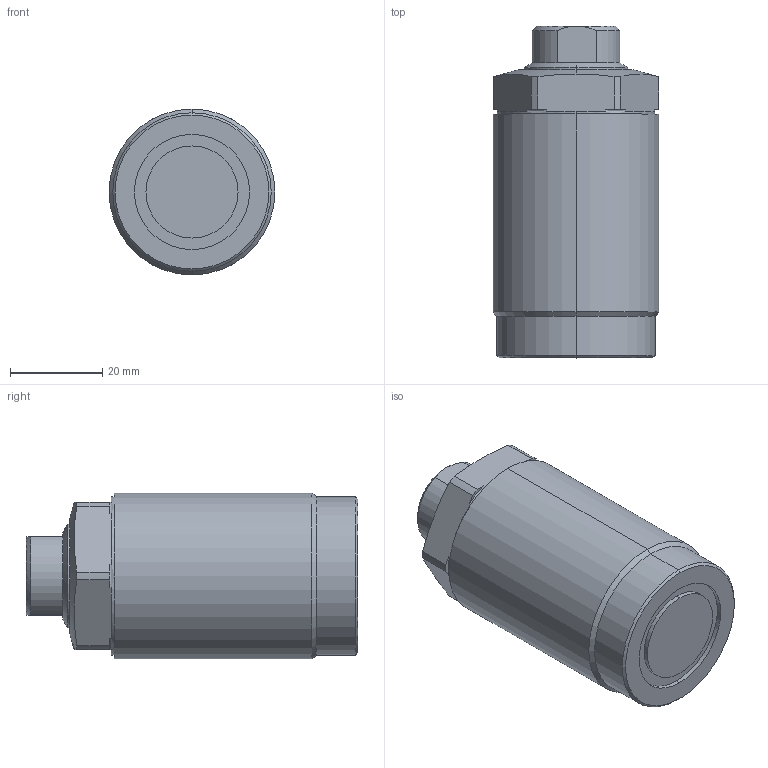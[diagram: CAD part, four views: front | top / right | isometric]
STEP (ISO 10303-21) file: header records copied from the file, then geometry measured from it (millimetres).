
FILE_DESCRIPTION (( 'STEP AP203' ), '1' );
FILE_NAME ('T03C-M364-M threaded pusher.STEP', '2022-07-09T17:41:54', ( '' ), ( '' ), 'SwSTEP 2.0', 'SolidWorks 2017', '' );
FILE_SCHEMA (( 'CONFIG_CONTROL_DESIGN' ));
Length unit declared in the file: millimetre
Products named in the file (3): T03C-M364-M part-1; T03C-M364-M part-2; T03C-M364-M threaded pusher
Assembly tree (2 placements, depth 2):
  T03C-M364-M threaded pusher
    T03C-M364-M part-1
    T03C-M364-M part-2
Bounding box: 36 x 72 x 36 mm (x, y, z)
Volume: 76904 mm3; surface area: 13024.5 mm2
Topology: 2 solids, 2 shells, 267 faces, 716 edges, 471 vertices
Faces by surface type: plane 141, bspline 85, cylinder 22, cone 19
Entity records: 12739 total; most frequent: CARTESIAN_POINT 6511, ORIENTED_EDGE 1428, DIRECTION 877, EDGE_CURVE 714, VERTEX_POINT 471, VECTOR 361, LINE 361, EDGE_LOOP 287
